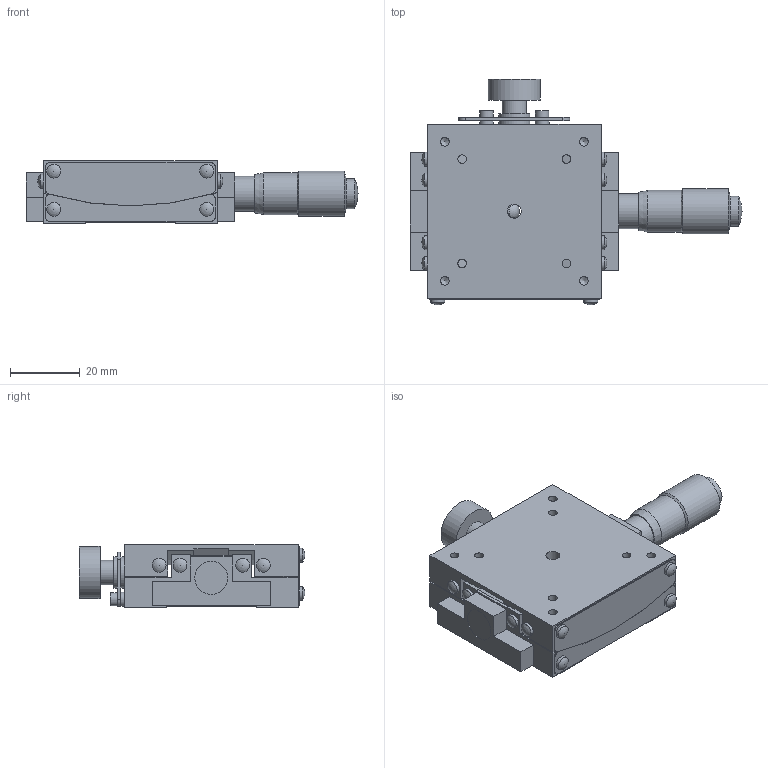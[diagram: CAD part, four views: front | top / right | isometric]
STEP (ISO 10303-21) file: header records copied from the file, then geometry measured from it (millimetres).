
FILE_DESCRIPTION( ( 'STEP AP214' ), '1' );
FILE_NAME( '//Srg14/OST事業部/技術G/各個人用/藤本/現在製作中の簡易形状+070424/3D_B58-50LA+070424/3D_B58-50LA+070424.step', '2007-04-30T02:31:57', ( ' ' ), ( ' ' ), 'XStep 1.0', ' ', ' ' );
FILE_SCHEMA( ( 'automotive_design' ) );
Length unit declared in the file: millimetre
Products named in the file (4): 1; 2; 3; 4
Bounding box: 95.5 x 64.9 x 18 mm (x, y, z)
Volume: 46693.8 mm3; surface area: 25397 mm2
Topology: 4 solids, 6 shells, 251 faces, 630 edges, 410 vertices
Faces by surface type: plane 118, cylinder 107, sphere 15, cone 11
Full cylindrical faces by diameter (mm): 2.5 x12, 3.5 x4, 3.8 x2, 4 x17, 5 x3, 6 x6, 6.5 x1, 7 x1, 8 x1, 8.6 x1, 9 x3, 9.5 x2, 10 x3, 10.5 x1, 11 x1, 12 x1, 13 x1, 15 x1
Entity records: 9371 total; most frequent: CARTESIAN_POINT 1721, DIRECTION 1198, ORIENTED_EDGE 1002, EDGE_CURVE 501, AXIS2_PLACEMENT_3D 464, EDGE_LOOP 377, VERTEX_POINT 371, FACE_OUTER_BOUND 312
